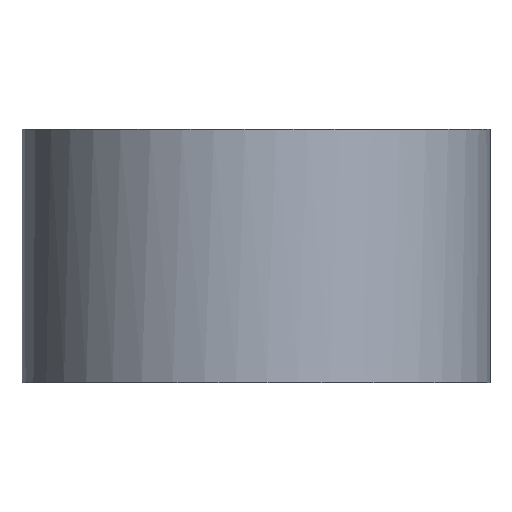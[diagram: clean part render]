
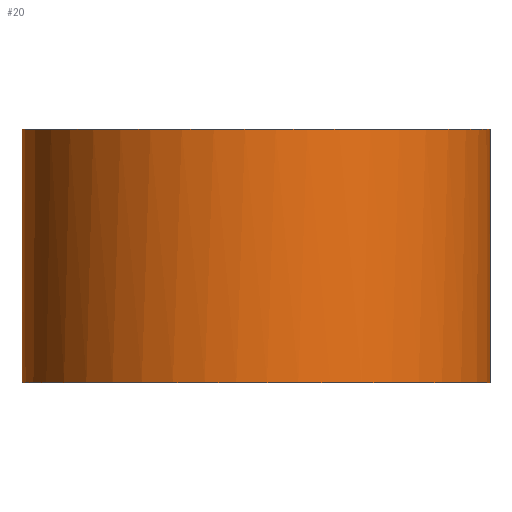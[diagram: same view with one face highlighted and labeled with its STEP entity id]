
A CAD part, front view. The second image highlights one B-rep face of the part: STEP entity #20.
In plain terms, the highlighted free-form (B-spline) face has degree [2, 1] with [5, 2] control points.
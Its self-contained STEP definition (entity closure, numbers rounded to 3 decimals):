
#20=ADVANCED_FACE('',(#26),#180,.T.);
#26=FACE_OUTER_BOUND('',#34,.T.);
#34=EDGE_LOOP('',(#52,#53,#54,#55));
#52=ORIENTED_EDGE('',*,*,#144,.F.);
#53=ORIENTED_EDGE('',*,*,#138,.F.);
#54=ORIENTED_EDGE('',*,*,#146,.F.);
#55=ORIENTED_EDGE('',*,*,#136,.F.);
#60=PCURVE('',#178,#84);
#62=PCURVE('',#178,#86);
#68=PCURVE('',#176,#92);
#73=PCURVE('',#177,#97);
#76=PCURVE('',#180,#100);
#77=PCURVE('',#180,#101);
#78=PCURVE('',#180,#102);
#79=PCURVE('',#180,#103);
#84=DEFINITIONAL_REPRESENTATION('',(#108),#453);
#86=DEFINITIONAL_REPRESENTATION('',(#110),#453);
#92=DEFINITIONAL_REPRESENTATION('',(#157),#453);
#97=DEFINITIONAL_REPRESENTATION('',(#164),#453);
#100=DEFINITIONAL_REPRESENTATION('',(#116),#453);
#101=DEFINITIONAL_REPRESENTATION('',(#117),#453);
#102=DEFINITIONAL_REPRESENTATION('',(#118),#453);
#103=DEFINITIONAL_REPRESENTATION('',(#119),#453);
#108=B_SPLINE_CURVE_WITH_KNOTS('',1,(#334,#335),.UNSPECIFIED.,.F.,.F.,(2,
2),(0.,13.),.UNSPECIFIED.);
#110=B_SPLINE_CURVE_WITH_KNOTS('',1,(#345,#346),.UNSPECIFIED.,.F.,.F.,(2,
2),(-13.,0.),.UNSPECIFIED.);
#116=B_SPLINE_CURVE_WITH_KNOTS('',1,(#436,#437),.UNSPECIFIED.,.F.,.F.,(2,
2),(-75.398,-37.699),.UNSPECIFIED.);
#117=B_SPLINE_CURVE_WITH_KNOTS('',1,(#438,#439),.UNSPECIFIED.,.F.,.F.,(2,
2),(-13.,0.),.UNSPECIFIED.);
#118=B_SPLINE_CURVE_WITH_KNOTS('',1,(#440,#441),.UNSPECIFIED.,.F.,.F.,(2,
2),(37.699,75.398),.UNSPECIFIED.);
#119=B_SPLINE_CURVE_WITH_KNOTS('',1,(#442,#443),.UNSPECIFIED.,.F.,.F.,(2,
2),(0.,13.),.UNSPECIFIED.);
#124=SURFACE_CURVE('',#148,(#60,#79),.PCURVE_S1.);
#126=SURFACE_CURVE('',#150,(#62,#77),.PCURVE_S1.);
#132=SURFACE_CURVE('',#156,(#68,#76),.PCURVE_S1.);
#134=SURFACE_CURVE('',#163,(#73,#78),.PCURVE_S1.);
#136=EDGE_CURVE('',#172,#173,#124,.T.);
#138=EDGE_CURVE('',#169,#168,#126,.T.);
#144=EDGE_CURVE('',#168,#172,#132,.T.);
#146=EDGE_CURVE('',#173,#169,#134,.T.);
#148=(
BOUNDED_CURVE()
B_SPLINE_CURVE(1,(#332,#333),.UNSPECIFIED.,.F.,.F.)
B_SPLINE_CURVE_WITH_KNOTS((2,2),(0.,13.),.UNSPECIFIED.)
CURVE()
GEOMETRIC_REPRESENTATION_ITEM()
RATIONAL_B_SPLINE_CURVE((1.,1.))
REPRESENTATION_ITEM('')
);
#150=(
BOUNDED_CURVE()
B_SPLINE_CURVE(1,(#343,#344),.UNSPECIFIED.,.F.,.F.)
B_SPLINE_CURVE_WITH_KNOTS((2,2),(-13.,0.),.UNSPECIFIED.)
CURVE()
GEOMETRIC_REPRESENTATION_ITEM()
RATIONAL_B_SPLINE_CURVE((1.,1.))
REPRESENTATION_ITEM('')
);
#156=(
BOUNDED_CURVE()
B_SPLINE_CURVE(2,(#376,#377,#378,#379,#380),.UNSPECIFIED.,.F.,.F.)
B_SPLINE_CURVE_WITH_KNOTS((3,2,3),(-75.398,-56.549,-37.699),
 .UNSPECIFIED.)
CURVE()
GEOMETRIC_REPRESENTATION_ITEM()
RATIONAL_B_SPLINE_CURVE((1.,0.707,1.,0.707,1.))
REPRESENTATION_ITEM('')
);
#157=(
BOUNDED_CURVE()
B_SPLINE_CURVE(2,(#381,#382,#383,#384,#385),.UNSPECIFIED.,.F.,.F.)
B_SPLINE_CURVE_WITH_KNOTS((3,2,3),(-75.398,-56.549,-37.699),
 .UNSPECIFIED.)
CURVE()
GEOMETRIC_REPRESENTATION_ITEM()
RATIONAL_B_SPLINE_CURVE((1.,0.707,1.,0.707,1.))
REPRESENTATION_ITEM('')
);
#163=(
BOUNDED_CURVE()
B_SPLINE_CURVE(2,(#411,#412,#413,#414,#415),.UNSPECIFIED.,.F.,.F.)
B_SPLINE_CURVE_WITH_KNOTS((3,2,3),(37.699,56.549,75.398),
 .UNSPECIFIED.)
CURVE()
GEOMETRIC_REPRESENTATION_ITEM()
RATIONAL_B_SPLINE_CURVE((1.,0.707,1.,0.707,1.))
REPRESENTATION_ITEM('')
);
#164=(
BOUNDED_CURVE()
B_SPLINE_CURVE(2,(#416,#417,#418,#419,#420),.UNSPECIFIED.,.F.,.F.)
B_SPLINE_CURVE_WITH_KNOTS((3,2,3),(37.699,56.549,75.398),
 .UNSPECIFIED.)
CURVE()
GEOMETRIC_REPRESENTATION_ITEM()
RATIONAL_B_SPLINE_CURVE((1.,0.707,1.,0.707,1.))
REPRESENTATION_ITEM('')
);
#168=VERTEX_POINT('',#324);
#169=VERTEX_POINT('',#325);
#172=VERTEX_POINT('',#328);
#173=VERTEX_POINT('',#329);
#176=B_SPLINE_SURFACE_WITH_KNOTS('',1,1,((#296,#297),(#298,#299)),
 .UNSPECIFIED.,.F.,.F.,.F.,(2,2),(2,2),(-15.,15.),(-27.,3.),
 .UNSPECIFIED.);
#177=B_SPLINE_SURFACE_WITH_KNOTS('',1,1,((#300,#301),(#302,#303)),
 .UNSPECIFIED.,.F.,.F.,.F.,(2,2),(2,2),(-27.,3.),(-15.,15.),
 .UNSPECIFIED.);
#178=(
BOUNDED_SURFACE()
B_SPLINE_SURFACE(2,1,((#276,#277),(#278,#279),(#280,#281),(#282,#283),(#284,
#285)),.UNSPECIFIED.,.F.,.F.,.F.)
B_SPLINE_SURFACE_WITH_KNOTS((3,2,3),(2,2),(0.,18.85,37.699),
(0.,13.),.UNSPECIFIED.)
GEOMETRIC_REPRESENTATION_ITEM()
RATIONAL_B_SPLINE_SURFACE(((1.,1.),(0.707,0.707),
(1.,1.),(0.707,0.707),(1.,1.)))
REPRESENTATION_ITEM('')
SURFACE()
);
#180=(
BOUNDED_SURFACE()
B_SPLINE_SURFACE(2,1,((#304,#305),(#306,#307),(#308,#309),(#310,#311),(#312,
#313)),.UNSPECIFIED.,.F.,.F.,.F.)
B_SPLINE_SURFACE_WITH_KNOTS((3,2,3),(2,2),(37.699,56.549,
75.398),(0.,13.),.UNSPECIFIED.)
GEOMETRIC_REPRESENTATION_ITEM()
RATIONAL_B_SPLINE_SURFACE(((1.,1.),(0.707,0.707),
(1.,1.),(0.707,0.707),(1.,1.)))
REPRESENTATION_ITEM('')
SURFACE()
);
#276=CARTESIAN_POINT('',(12.,0.,-36.));
#277=CARTESIAN_POINT('',(12.,0.,-23.));
#278=CARTESIAN_POINT('',(12.,12.,-36.));
#279=CARTESIAN_POINT('',(12.,12.,-23.));
#280=CARTESIAN_POINT('',(0.,12.,-36.));
#281=CARTESIAN_POINT('',(0.,12.,-23.));
#282=CARTESIAN_POINT('',(-12.,12.,-36.));
#283=CARTESIAN_POINT('',(-12.,12.,-23.));
#284=CARTESIAN_POINT('',(-12.,0.,-36.));
#285=CARTESIAN_POINT('',(-12.,0.,-23.));
#296=CARTESIAN_POINT('',(-15.,-15.,-36.));
#297=CARTESIAN_POINT('',(15.,-15.,-36.));
#298=CARTESIAN_POINT('',(-15.,15.,-36.));
#299=CARTESIAN_POINT('',(15.,15.,-36.));
#300=CARTESIAN_POINT('',(-15.,-15.,-23.));
#301=CARTESIAN_POINT('',(-15.,15.,-23.));
#302=CARTESIAN_POINT('',(15.,-15.,-23.));
#303=CARTESIAN_POINT('',(15.,15.,-23.));
#304=CARTESIAN_POINT('',(-12.,0.,-36.));
#305=CARTESIAN_POINT('',(-12.,0.,-23.));
#306=CARTESIAN_POINT('',(-12.,-12.,-36.));
#307=CARTESIAN_POINT('',(-12.,-12.,-23.));
#308=CARTESIAN_POINT('',(0.,-12.,-36.));
#309=CARTESIAN_POINT('',(0.,-12.,-23.));
#310=CARTESIAN_POINT('',(12.,-12.,-36.));
#311=CARTESIAN_POINT('',(12.,-12.,-23.));
#312=CARTESIAN_POINT('',(12.,0.,-36.));
#313=CARTESIAN_POINT('',(12.,0.,-23.));
#324=CARTESIAN_POINT('',(12.,0.,-36.));
#325=CARTESIAN_POINT('',(12.,0.,-23.));
#328=CARTESIAN_POINT('',(-12.,0.,-36.));
#329=CARTESIAN_POINT('',(-12.,0.,-23.));
#332=CARTESIAN_POINT('',(-12.,0.,-36.));
#333=CARTESIAN_POINT('',(-12.,0.,-23.));
#334=CARTESIAN_POINT('',(37.699,0.));
#335=CARTESIAN_POINT('',(37.699,13.));
#343=CARTESIAN_POINT('',(12.,0.,-23.));
#344=CARTESIAN_POINT('',(12.,0.,-36.));
#345=CARTESIAN_POINT('',(0.,13.));
#346=CARTESIAN_POINT('',(0.,0.));
#376=CARTESIAN_POINT('',(12.,0.,-36.));
#377=CARTESIAN_POINT('',(12.,-12.,-36.));
#378=CARTESIAN_POINT('',(0.,-12.,-36.));
#379=CARTESIAN_POINT('',(-12.,-12.,-36.));
#380=CARTESIAN_POINT('',(-12.,0.,-36.));
#381=CARTESIAN_POINT('',(0.,0.));
#382=CARTESIAN_POINT('',(-12.,0.));
#383=CARTESIAN_POINT('',(-12.,-12.));
#384=CARTESIAN_POINT('',(-12.,-24.));
#385=CARTESIAN_POINT('',(0.,-24.));
#411=CARTESIAN_POINT('',(-12.,0.,-23.));
#412=CARTESIAN_POINT('',(-12.,-12.,-23.));
#413=CARTESIAN_POINT('',(0.,-12.,-23.));
#414=CARTESIAN_POINT('',(12.,-12.,-23.));
#415=CARTESIAN_POINT('',(12.,0.,-23.));
#416=CARTESIAN_POINT('',(-24.,0.));
#417=CARTESIAN_POINT('',(-24.,-12.));
#418=CARTESIAN_POINT('',(-12.,-12.));
#419=CARTESIAN_POINT('',(0.,-12.));
#420=CARTESIAN_POINT('',(0.,0.));
#436=CARTESIAN_POINT('',(75.398,0.));
#437=CARTESIAN_POINT('',(37.699,0.));
#438=CARTESIAN_POINT('',(75.398,13.));
#439=CARTESIAN_POINT('',(75.398,0.));
#440=CARTESIAN_POINT('',(37.699,13.));
#441=CARTESIAN_POINT('',(75.398,13.));
#442=CARTESIAN_POINT('',(37.699,0.));
#443=CARTESIAN_POINT('',(37.699,13.));
#453=(
GEOMETRIC_REPRESENTATION_CONTEXT(2)
PARAMETRIC_REPRESENTATION_CONTEXT()
REPRESENTATION_CONTEXT('pspace','')
);
